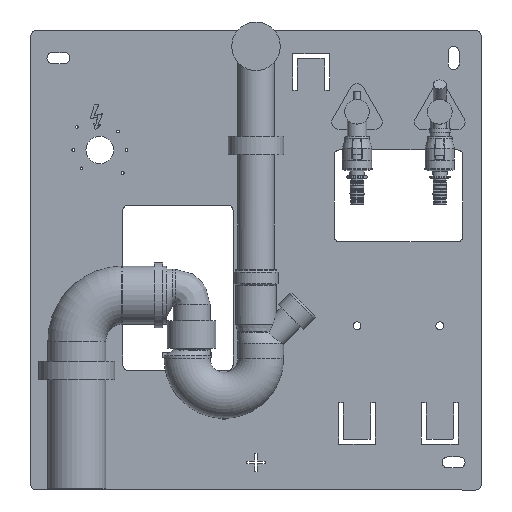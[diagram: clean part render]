
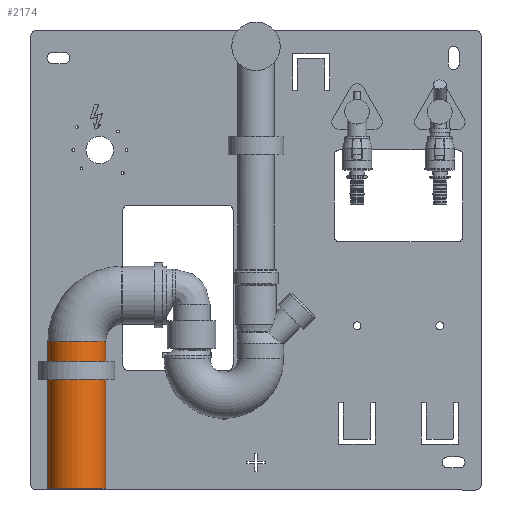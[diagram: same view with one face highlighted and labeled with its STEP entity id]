
A CAD part, front view. The second image highlights one B-rep face of the part: STEP entity #2174.
In plain terms, the highlighted cylindrical face has radius 31.5 mm (diameter 63 mm), a full revolution.
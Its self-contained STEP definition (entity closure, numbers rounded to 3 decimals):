
#2174=ADVANCED_FACE('',(#4301,#4302),#4303,.T.);
#4301=FACE_BOUND('',#7669,.T.);
#4302=FACE_BOUND('',#7670,.T.);
#4303=CYLINDRICAL_SURFACE('',#7671,31.5);
#7669=EDGE_LOOP('',(#10221));
#7670=EDGE_LOOP('',(#10222));
#7671=AXIS2_PLACEMENT_3D('',#10223,#10224,#10225);
#10221=ORIENTED_EDGE('',*,*,#17388,.F.);
#10222=ORIENTED_EDGE('',*,*,#17389,.T.);
#10223=CARTESIAN_POINT('',(-136.765,-50.0,190.0));
#10224=DIRECTION('',(0.,0.,1.0));
#10225=DIRECTION('',(0.,1.0,0.));
#17388=EDGE_CURVE('',#21182,#21182,#21183,.T.);
#17389=EDGE_CURVE('',#21184,#21184,#21185,.T.);
#21182=VERTEX_POINT('',#24926);
#21183=CIRCLE('',#24927,31.5);
#21184=VERTEX_POINT('',#24928);
#21185=CIRCLE('',#24929,31.5);
#24926=CARTESIAN_POINT('',(-105.265,-50.0,350.));
#24927=AXIS2_PLACEMENT_3D('',#29905,#29906,#29907);
#24928=CARTESIAN_POINT('',(-136.765,-18.5,190.0));
#24929=AXIS2_PLACEMENT_3D('',#29908,#29909,#29910);
#29905=CARTESIAN_POINT('',(-136.765,-50.0,350.));
#29906=DIRECTION('',(0.0,0.0,1.0));
#29907=DIRECTION('',(-1.0,0.0,0.0));
#29908=CARTESIAN_POINT('',(-136.765,-50.0,190.0));
#29909=DIRECTION('',(0.,0.,1.0));
#29910=DIRECTION('',(0.,1.0,0.));
